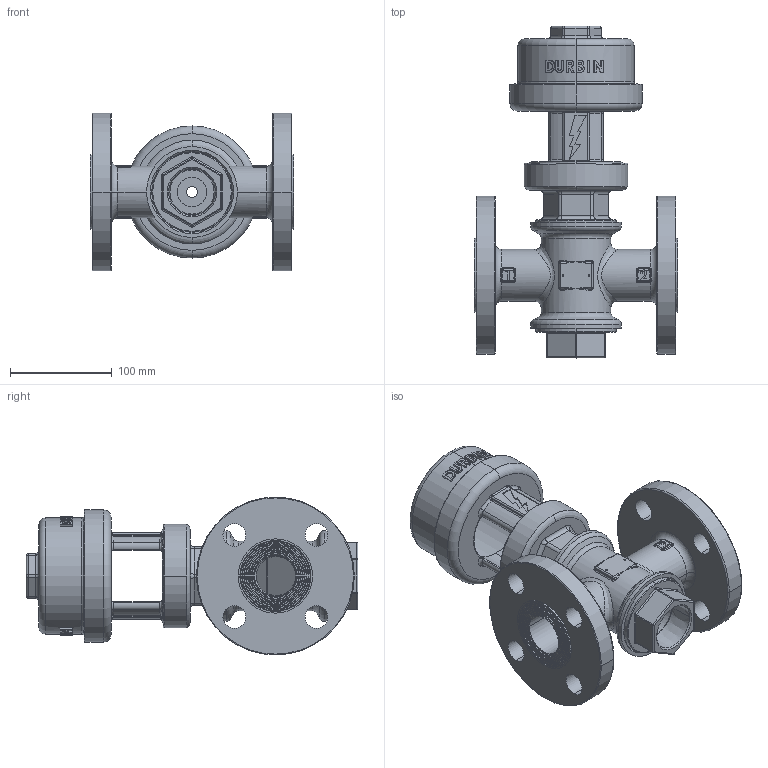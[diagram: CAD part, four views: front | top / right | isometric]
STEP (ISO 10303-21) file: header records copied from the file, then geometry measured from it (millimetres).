
FILE_DESCRIPTION (( 'STEP AP203' ), '1' );
FILE_NAME ('1.50 2W-3W FLANGE PSI-STEP.STEP', '2018-11-07T19:19:34', ( '' ), ( '' ), 'SwSTEP 2.0', 'SolidWorks 2012', '' );
FILE_SCHEMA (( 'CONFIG_CONTROL_DESIGN' ));
Length unit declared in the file: inch
Products named in the file (6): 1.50 2W-3W FLANGE PSI-STEP; PSI-502-SS; DCT-303; PSI-509-SS; DCT-305; PSI-501F-SS
Assembly tree (5 placements, depth 2):
  1.50 2W-3W FLANGE PSI-STEP
    PSI-501F-SS
    DCT-305
    PSI-509-SS
    DCT-303
    PSI-502-SS
Bounding box: 200.03 x 327.02 x 155.57 mm (x, y, z)
Volume: 1561056.8 mm3; surface area: 388130.6 mm2
Topology: 5 solids, 5 shells, 1157 faces, 2737 edges, 1651 vertices
Faces by surface type: plane 315, bspline 271, cylinder 254, torus 171, cone 128, sphere 18
Entity records: 46971 total; most frequent: CARTESIAN_POINT 20896, ORIENTED_EDGE 5430, DIRECTION 5176, EDGE_CURVE 2715, AXIS2_PLACEMENT_3D 2074, VERTEX_POINT 1651, EDGE_LOOP 1274, CIRCLE 1180
